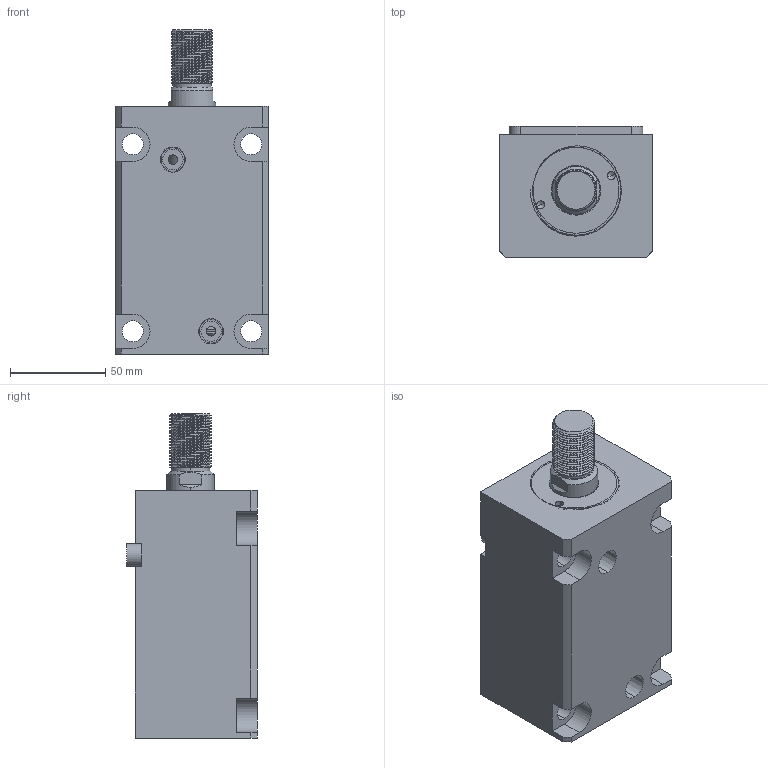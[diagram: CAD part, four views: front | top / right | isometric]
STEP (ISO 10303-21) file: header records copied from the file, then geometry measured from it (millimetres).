
FILE_DESCRIPTION (( 'STEP AP214' ), '1' );
FILE_NAME ('chtb-la40x75w_asm.STEP', '2018-06-02T07:52:16', ( 'Windows' ), ( 'Microsoft' ), 'SwSTEP 2.0', 'SolidWorks 2015', '' );
FILE_SCHEMA (( 'AUTOMOTIVE_DESIGN' ));
Length unit declared in the file: millimetre
Products named in the file (5): CHTB-SD40X75WHSG; CHTB-LA40X75NBT; chtb-la40x75w_asm; CHTB-LA40PJ; CHTB-SD40QG
Assembly tree (4 placements, depth 2):
  chtb-la40x75w_asm
    CHTB-LA40X75NBT
    CHTB-SD40X75WHSG
    CHTB-LA40PJ
    CHTB-SD40QG
Bounding box: 80 x 68.5 x 170 mm (x, y, z)
Volume: 585545.2 mm3; surface area: 104259.5 mm2
Topology: 4 solids, 5 shells, 205 faces, 559 edges, 373 vertices
Faces by surface type: cylinder 111, plane 52, bspline 16, cone 14, torus 12
Entity records: 13775 total; most frequent: CARTESIAN_POINT 8706, ORIENTED_EDGE 1106, DIRECTION 926, EDGE_CURVE 553, VERTEX_POINT 373, AXIS2_PLACEMENT_3D 363, EDGE_LOOP 234, FACE_OUTER_BOUND 205
